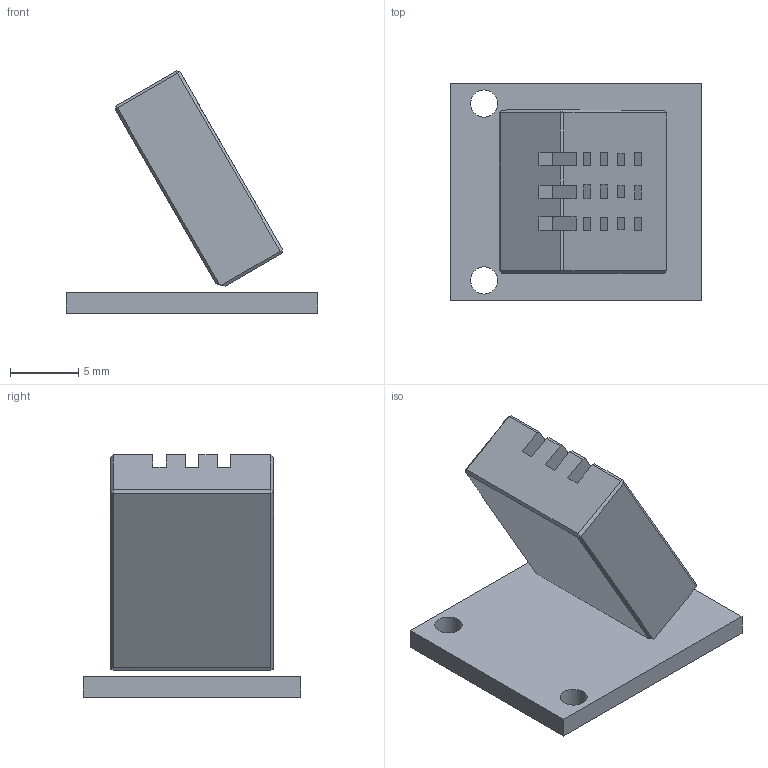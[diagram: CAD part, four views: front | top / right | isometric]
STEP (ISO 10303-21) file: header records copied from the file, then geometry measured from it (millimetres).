
FILE_DESCRIPTION(('FreeCAD Model'),'2;1');
FILE_NAME('Open CASCADE Shape Model','2023-04-10T16:49:30',('Author'),( ''),'Open CASCADE STEP processor 7.5','FreeCAD','Unknown');
FILE_SCHEMA(('AUTOMOTIVE_DESIGN { 1 0 10303 214 1 1 1 1 }'));
Length unit declared in the file: millimetre
Products named in the file (3): termometr dht11; Body009; Body010
Assembly tree (2 placements, depth 2):
  termometr dht11
    Body009
    Body010
Bounding box: 18.5 x 16 x 17.81 mm (x, y, z)
Volume: 1418.8 mm3; surface area: 1477.3 mm2
Topology: 2 solids, 2 shells, 107 faces, 255 edges, 164 vertices
Faces by surface type: plane 105, cylinder 2
Full cylindrical faces by diameter (mm): 2 x2
Entity records: 6411 total; most frequent: CARTESIAN_POINT 1063, DIRECTION 985, LINE 757, VECTOR 757, ORIENTED_EDGE 510, PCURVE 510, DEFINITIONAL_REPRESENTATION 510, EDGE_CURVE 255
